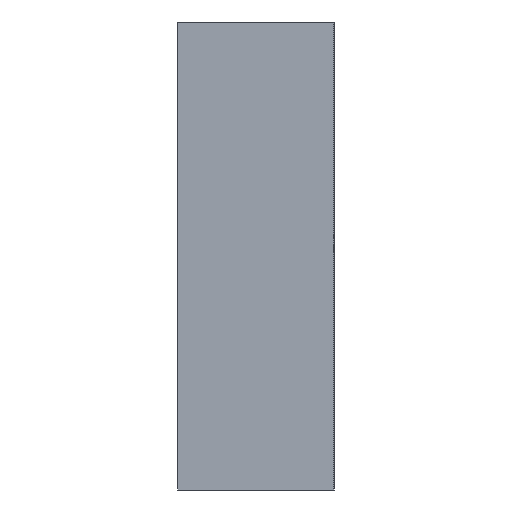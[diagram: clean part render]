
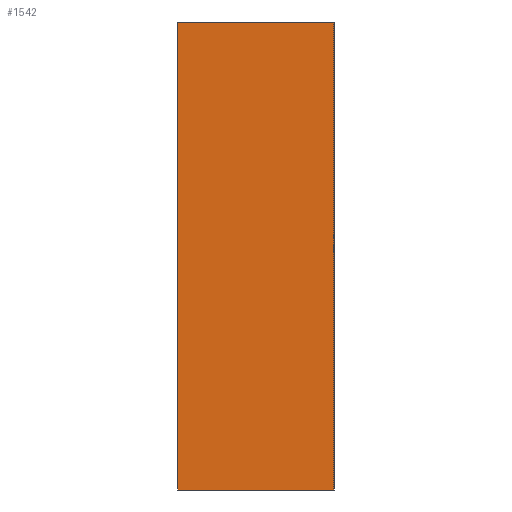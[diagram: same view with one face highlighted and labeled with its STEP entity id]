
A CAD part, front view. The second image highlights one B-rep face of the part: STEP entity #1542.
In plain terms, the highlighted planar face has unit normal (0, -1, 0).
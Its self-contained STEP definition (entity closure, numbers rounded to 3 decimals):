
#53 = AXIS2_PLACEMENT_3D ( 'NONE', #1498, #1045, #1046 ) ;
#71 = EDGE_CURVE ( 'NONE', #1101, #973, #296, .T. ) ;
#80 = EDGE_CURVE ( 'NONE', #1180, #995, #325, .T. ) ;
#96 = EDGE_CURVE ( 'NONE', #973, #995, #334, .T. ) ;
#209 = VECTOR ( 'NONE', #1439, 1000. ) ;
#210 = LINE ( 'NONE', #1373, #209 ) ;
#285 = VECTOR ( 'NONE', #978, 1000. ) ;
#286 = VECTOR ( 'NONE', #1135, 1000. ) ;
#296 = LINE ( 'NONE', #1134, #285 ) ;
#325 = LINE ( 'NONE', #1199, #286 ) ;
#334 = LINE ( 'NONE', #966, #335 ) ;
#335 = VECTOR ( 'NONE', #1300, 1000. ) ;
#431 = EDGE_CURVE ( 'NONE', #1101, #1180, #210, .T. ) ;
#712 = ORIENTED_EDGE ( 'NONE', *, *, #71, .T. ) ;
#713 = ORIENTED_EDGE ( 'NONE', *, *, #431, .F. ) ;
#714 = ORIENTED_EDGE ( 'NONE', *, *, #80, .F. ) ;
#715 = ORIENTED_EDGE ( 'NONE', *, *, #96, .T. ) ;
#806 = FACE_OUTER_BOUND ( 'NONE', #866, .T. ) ;
#866 = EDGE_LOOP ( 'NONE', ( #715, #714, #713, #712 ) ) ;
#949 = CARTESIAN_POINT ( 'NONE',  ( 5., -14.5, -15. ) ) ;
#955 = CARTESIAN_POINT ( 'NONE',  ( -5., -14.5, 15. ) ) ;
#966 = CARTESIAN_POINT ( 'NONE',  ( -5., -14.5, -15. ) ) ;
#973 = VERTEX_POINT ( 'NONE', #1325 ) ;
#978 = DIRECTION ( 'NONE',  ( 0., 0., -1. ) ) ;
#995 = VERTEX_POINT ( 'NONE', #949 ) ;
#1033 = CARTESIAN_POINT ( 'NONE',  ( 5., -14.5, 15. ) ) ;
#1045 = DIRECTION ( 'NONE',  ( 0., 1., 0. ) ) ;
#1046 = DIRECTION ( 'NONE',  ( 0., 0., 1. ) ) ;
#1101 = VERTEX_POINT ( 'NONE', #955 ) ;
#1134 = CARTESIAN_POINT ( 'NONE',  ( -5., -14.5, 15. ) ) ;
#1135 = DIRECTION ( 'NONE',  ( 0., 0., -1. ) ) ;
#1180 = VERTEX_POINT ( 'NONE', #1033 ) ;
#1199 = CARTESIAN_POINT ( 'NONE',  ( 5., -14.5, 15. ) ) ;
#1300 = DIRECTION ( 'NONE',  ( 1., 0., 0. ) ) ;
#1325 = CARTESIAN_POINT ( 'NONE',  ( -5., -14.5, -15. ) ) ;
#1373 = CARTESIAN_POINT ( 'NONE',  ( -5., -14.5, 15. ) ) ;
#1439 = DIRECTION ( 'NONE',  ( 1., 0., 0. ) ) ;
#1498 = CARTESIAN_POINT ( 'NONE',  ( -5., -14.5, 15. ) ) ;
#1503 = PLANE ( 'NONE',  #53 ) ;
#1542 = ADVANCED_FACE ( 'NONE', ( #806 ), #1503, .F. ) ;
